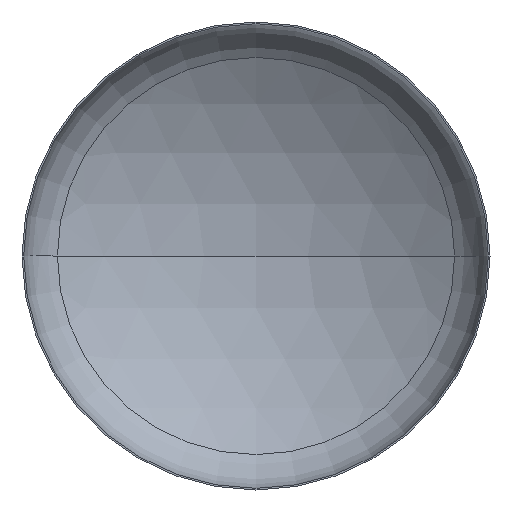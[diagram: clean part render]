
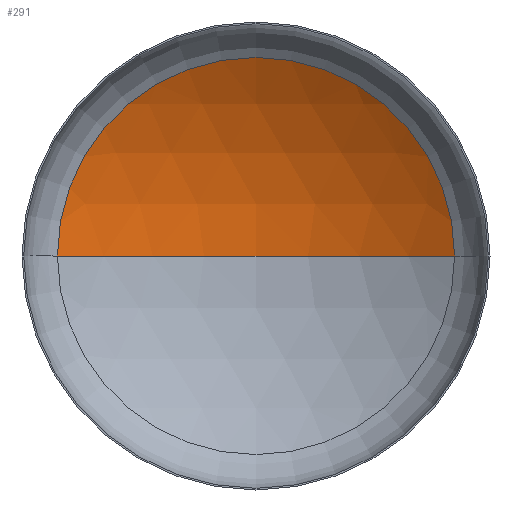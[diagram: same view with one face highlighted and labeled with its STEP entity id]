
A CAD part, front view. The second image highlights one B-rep face of the part: STEP entity #291.
In plain terms, the highlighted spherical face has radius 2240 mm.
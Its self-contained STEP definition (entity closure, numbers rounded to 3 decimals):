
#35 = AXIS2_PLACEMENT_3D ( 'NONE', #239, #241, #174 ) ;
#37 = ORIENTED_EDGE ( 'NONE', *, *, #389, .T. ) ;
#38 = DIRECTION ( 'NONE',  ( -1., 0., 0. ) ) ;
#50 = AXIS2_PLACEMENT_3D ( 'NONE', #150, #137, #38 ) ;
#71 = VERTEX_POINT ( 'NONE', #299 ) ;
#88 = ORIENTED_EDGE ( 'NONE', *, *, #323, .F. ) ;
#109 = VERTEX_POINT ( 'NONE', #225 ) ;
#123 = DIRECTION ( 'NONE',  ( 0., -1., 0. ) ) ;
#137 = DIRECTION ( 'NONE',  ( 0., 0., -1. ) ) ;
#150 = CARTESIAN_POINT ( 'NONE',  ( 0., -1504.438, 0. ) ) ;
#158 = CARTESIAN_POINT ( 'NONE',  ( -1188.066, 394.535, 0. ) ) ;
#166 = SPHERICAL_SURFACE ( 'NONE', #50, 2240. ) ;
#174 = DIRECTION ( 'NONE',  ( 1., 0., 0. ) ) ;
#176 = CIRCLE ( 'NONE', #395, 2240. ) ;
#225 = CARTESIAN_POINT ( 'NONE',  ( 1188.066, 394.535, 0. ) ) ;
#237 = CARTESIAN_POINT ( 'NONE',  ( 0., -1504.438, 0. ) ) ;
#239 = CARTESIAN_POINT ( 'NONE',  ( 0., -1504.438, 0. ) ) ;
#241 = DIRECTION ( 'NONE',  ( 0., 0., 1. ) ) ;
#267 = DIRECTION ( 'NONE',  ( -1., 0., 0. ) ) ;
#272 = EDGE_LOOP ( 'NONE', ( #88, #37, #347 ) ) ;
#291 = ADVANCED_FACE ( 'NONE', ( #361 ), #166, .F. ) ;
#292 = CARTESIAN_POINT ( 'NONE',  ( 0., 394.535, 0. ) ) ;
#299 = CARTESIAN_POINT ( 'NONE',  ( 0., 735.562, 0. ) ) ;
#316 = DIRECTION ( 'NONE',  ( 1., 0., 0. ) ) ;
#323 = EDGE_CURVE ( 'NONE', #71, #394, #355, .T. ) ;
#347 = ORIENTED_EDGE ( 'NONE', *, *, #375, .T. ) ;
#355 = CIRCLE ( 'NONE', #35, 2240. ) ;
#361 = FACE_OUTER_BOUND ( 'NONE', #272, .T. ) ;
#371 = AXIS2_PLACEMENT_3D ( 'NONE', #292, #123, #316 ) ;
#375 = EDGE_CURVE ( 'NONE', #109, #394, #376, .T. ) ;
#376 = CIRCLE ( 'NONE', #371, 1188.066 ) ;
#389 = EDGE_CURVE ( 'NONE', #71, #109, #176, .T. ) ;
#394 = VERTEX_POINT ( 'NONE', #158 ) ;
#395 = AXIS2_PLACEMENT_3D ( 'NONE', #237, #401, #267 ) ;
#401 = DIRECTION ( 'NONE',  ( 0., 0., -1. ) ) ;
